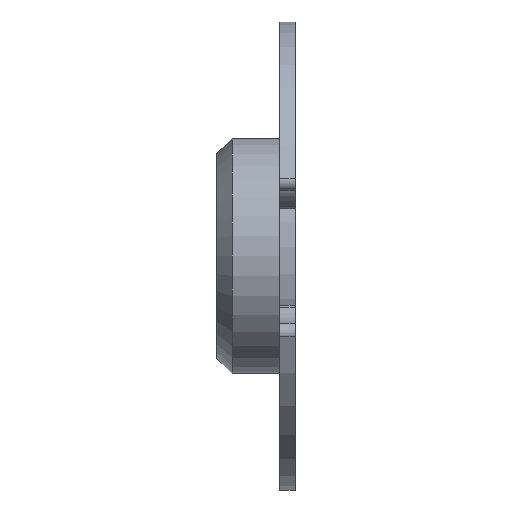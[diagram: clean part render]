
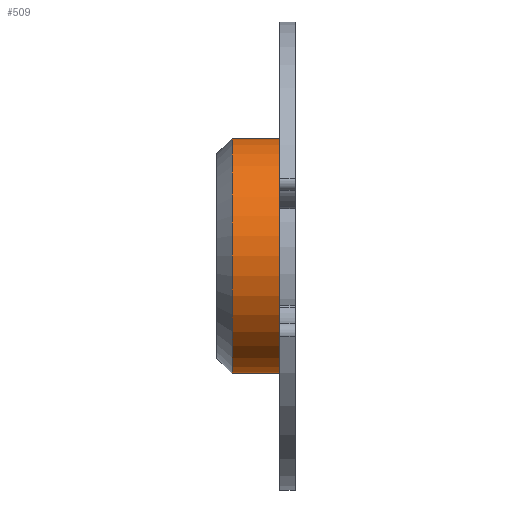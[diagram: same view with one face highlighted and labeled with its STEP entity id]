
A CAD part, left-side view. The second image highlights one B-rep face of the part: STEP entity #509.
In plain terms, the highlighted cylindrical face has radius 7.5 mm (diameter 15 mm), a partial arc.
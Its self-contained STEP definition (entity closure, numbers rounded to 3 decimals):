
#72 = VERTEX_POINT ( 'NONE', #3427 ) ;
#149 = AXIS2_PLACEMENT_3D ( 'NONE', #4475, #321, #3099 ) ;
#321 = DIRECTION ( 'NONE',  ( 0., -1., 0. ) ) ;
#509 = ADVANCED_FACE ( 'NONE', ( #4728 ), #3388, .T. ) ;
#935 = ORIENTED_EDGE ( 'NONE', *, *, #4126, .F. ) ;
#1097 = DIRECTION ( 'NONE',  ( 0., 0., 1. ) ) ;
#1139 = CARTESIAN_POINT ( 'NONE',  ( 0., 0., 7.5 ) ) ;
#1207 = DIRECTION ( 'NONE',  ( 0., -1., 0. ) ) ;
#1344 = VECTOR ( 'NONE', #3576, 1000. ) ;
#1462 = CARTESIAN_POINT ( 'NONE',  ( 0., 4., 0. ) ) ;
#1557 = DIRECTION ( 'NONE',  ( 0., 0., -1. ) ) ;
#1585 = CIRCLE ( 'NONE', #2446, 7.5 ) ;
#1747 = EDGE_CURVE ( 'NONE', #72, #5458, #2650, .T. ) ;
#2095 = CARTESIAN_POINT ( 'NONE',  ( 0., 3., 0. ) ) ;
#2198 = CARTESIAN_POINT ( 'NONE',  ( 0., 4., 7.5 ) ) ;
#2223 = ORIENTED_EDGE ( 'NONE', *, *, #4112, .F. ) ;
#2446 = AXIS2_PLACEMENT_3D ( 'NONE', #2095, #4725, #1097 ) ;
#2501 = VERTEX_POINT ( 'NONE', #4346 ) ;
#2650 = LINE ( 'NONE', #4951, #3410 ) ;
#2673 = LINE ( 'NONE', #2198, #1344 ) ;
#2806 = EDGE_CURVE ( 'NONE', #72, #2501, #1585, .T. ) ;
#2850 = DIRECTION ( 'NONE',  ( 0., -1., 0. ) ) ;
#3099 = DIRECTION ( 'NONE',  ( 0., 0., 1. ) ) ;
#3388 = CYLINDRICAL_SURFACE ( 'NONE', #5375, 7.5 ) ;
#3410 = VECTOR ( 'NONE', #1207, 1000. ) ;
#3427 = CARTESIAN_POINT ( 'NONE',  ( 0., 3., -7.5 ) ) ;
#3566 = ORIENTED_EDGE ( 'NONE', *, *, #2806, .F. ) ;
#3576 = DIRECTION ( 'NONE',  ( 0., -1., 0. ) ) ;
#3819 = CARTESIAN_POINT ( 'NONE',  ( 0., 0., -7.5 ) ) ;
#4112 = EDGE_CURVE ( 'NONE', #5282, #5458, #4277, .T. ) ;
#4126 = EDGE_CURVE ( 'NONE', #2501, #5282, #2673, .T. ) ;
#4277 = CIRCLE ( 'NONE', #149, 7.5 ) ;
#4346 = CARTESIAN_POINT ( 'NONE',  ( 0., 3., 7.5 ) ) ;
#4475 = CARTESIAN_POINT ( 'NONE',  ( 0., 0., 0. ) ) ;
#4725 = DIRECTION ( 'NONE',  ( 0., 1., 0. ) ) ;
#4728 = FACE_OUTER_BOUND ( 'NONE', #4744, .T. ) ;
#4744 = EDGE_LOOP ( 'NONE', ( #935, #3566, #5918, #2223 ) ) ;
#4951 = CARTESIAN_POINT ( 'NONE',  ( 0., 4., -7.5 ) ) ;
#5282 = VERTEX_POINT ( 'NONE', #1139 ) ;
#5375 = AXIS2_PLACEMENT_3D ( 'NONE', #1462, #2850, #1557 ) ;
#5458 = VERTEX_POINT ( 'NONE', #3819 ) ;
#5918 = ORIENTED_EDGE ( 'NONE', *, *, #1747, .T. ) ;
